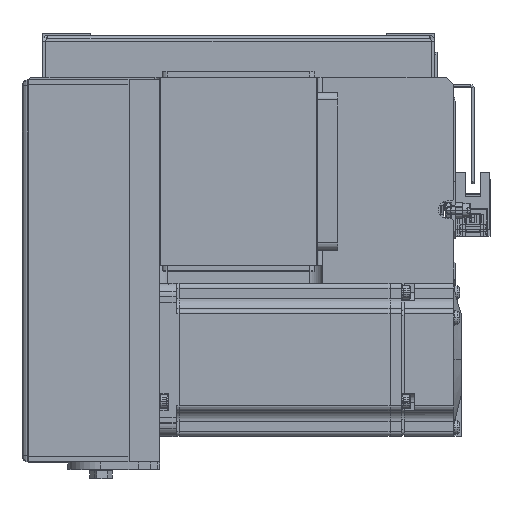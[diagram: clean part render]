
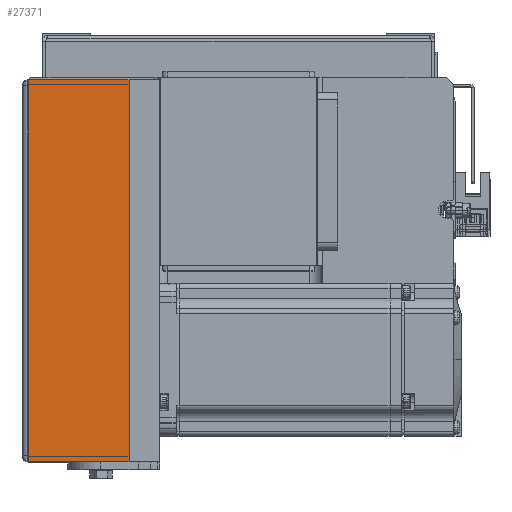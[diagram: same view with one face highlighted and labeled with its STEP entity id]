
A CAD part, top view. The second image highlights one B-rep face of the part: STEP entity #27371.
In plain terms, the highlighted planar face has unit normal (0, 0, 1) as drawn and (0, -1, 0) by its records, which use the part's own axes.
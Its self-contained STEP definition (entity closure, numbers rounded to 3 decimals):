
#69 = DIRECTION ( 'NONE',  ( 0., 1., 0. ) ) ;
#1842 = VERTEX_POINT ( 'NONE', #3244 ) ;
#2182 = VECTOR ( 'NONE', #36071, 1000. ) ;
#3244 = CARTESIAN_POINT ( 'NONE',  ( 75., -36., 12. ) ) ;
#3968 = EDGE_CURVE ( 'NONE', #31508, #1842, #21472, .T. ) ;
#4814 = EDGE_LOOP ( 'NONE', ( #10235, #34069, #22835, #11892 ) ) ;
#7698 = DIRECTION ( 'NONE',  ( 1., 0., 0. ) ) ;
#8671 = CARTESIAN_POINT ( 'NONE',  ( -75., -36., 51.5 ) ) ;
#9860 = DIRECTION ( 'NONE',  ( 0., 0., -1. ) ) ;
#10221 = AXIS2_PLACEMENT_3D ( 'NONE', #38447, #69, #9860 ) ;
#10235 = ORIENTED_EDGE ( 'NONE', *, *, #33054, .F. ) ;
#11892 = ORIENTED_EDGE ( 'NONE', *, *, #22723, .F. ) ;
#12525 = VECTOR ( 'NONE', #7698, 1000. ) ;
#13669 = CARTESIAN_POINT ( 'NONE',  ( -75., -36., 12. ) ) ;
#17968 = CARTESIAN_POINT ( 'NONE',  ( 0., -36., 12. ) ) ;
#18720 = EDGE_CURVE ( 'NONE', #30527, #31508, #33284, .T. ) ;
#20046 = CARTESIAN_POINT ( 'NONE',  ( 75., -36., 51.5 ) ) ;
#20137 = VERTEX_POINT ( 'NONE', #30817 ) ;
#21007 = DIRECTION ( 'NONE',  ( 0., 0., -1. ) ) ;
#21472 = LINE ( 'NONE', #17968, #24430 ) ;
#22723 = EDGE_CURVE ( 'NONE', #20137, #1842, #23365, .T. ) ;
#22835 = ORIENTED_EDGE ( 'NONE', *, *, #3968, .T. ) ;
#23365 = LINE ( 'NONE', #20046, #2182 ) ;
#23540 = LINE ( 'NONE', #36267, #12525 ) ;
#24430 = VECTOR ( 'NONE', #34177, 1000. ) ;
#27371 = ADVANCED_FACE ( 'NONE', ( #38225 ), #32594, .F. ) ;
#28587 = VECTOR ( 'NONE', #21007, 1000. ) ;
#30527 = VERTEX_POINT ( 'NONE', #30870 ) ;
#30817 = CARTESIAN_POINT ( 'NONE',  ( 75., -36., 51.5 ) ) ;
#30870 = CARTESIAN_POINT ( 'NONE',  ( -75., -36., 51.5 ) ) ;
#31508 = VERTEX_POINT ( 'NONE', #13669 ) ;
#32594 = PLANE ( 'NONE',  #10221 ) ;
#33054 = EDGE_CURVE ( 'NONE', #30527, #20137, #23540, .T. ) ;
#33284 = LINE ( 'NONE', #8671, #28587 ) ;
#34069 = ORIENTED_EDGE ( 'NONE', *, *, #18720, .T. ) ;
#34177 = DIRECTION ( 'NONE',  ( 1., 0., 0. ) ) ;
#36071 = DIRECTION ( 'NONE',  ( 0., 0., -1. ) ) ;
#36267 = CARTESIAN_POINT ( 'NONE',  ( 75., -36., 51.5 ) ) ;
#38225 = FACE_OUTER_BOUND ( 'NONE', #4814, .T. ) ;
#38447 = CARTESIAN_POINT ( 'NONE',  ( 0., -36., 52. ) ) ;
